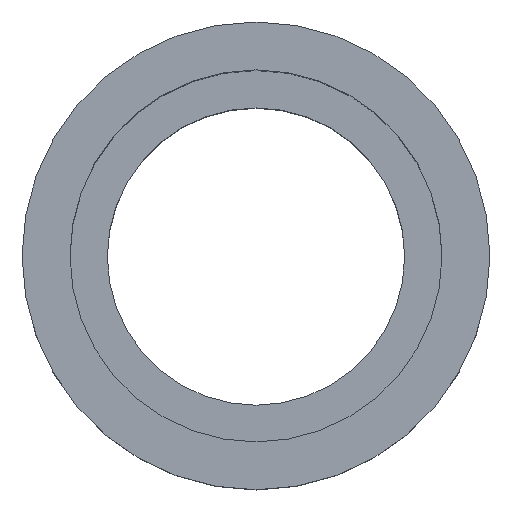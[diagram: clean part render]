
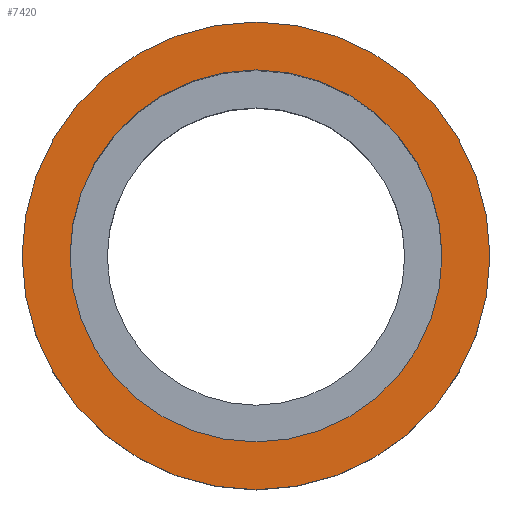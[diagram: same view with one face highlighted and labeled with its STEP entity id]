
A CAD part, top view. The second image highlights one B-rep face of the part: STEP entity #7420.
In plain terms, the highlighted planar face has unit normal (0, 0, 1) as drawn and (-1, 0, 0) by its records, which use the part's own axes.
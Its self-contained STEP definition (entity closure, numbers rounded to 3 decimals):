
#5640=CARTESIAN_POINT('',(-57.464,-60.,-24.65));
#5650=VERTEX_POINT('',#5640);
#5810=CARTESIAN_POINT('',(-57.464,-60.,24.65));
#5820=VERTEX_POINT('',#5810);
#5850=CARTESIAN_POINT('',(-57.464,-60.,0.));
#5860=DIRECTION('',(-1.,0.,0.));
#5870=DIRECTION('',(0.,0.,1.));
#5880=AXIS2_PLACEMENT_3D('',#5850,#5860,#5870);
#5890=CIRCLE('',#5880,24.65);
#5900=EDGE_CURVE('',#5650,#5820,#5890,.T.);
#7000=CARTESIAN_POINT('',(-57.464,-91.,0.));
#7010=VERTEX_POINT('',#7000);
#7130=CARTESIAN_POINT('',(-57.464,-29.,0.));
#7140=VERTEX_POINT('',#7130);
#7170=CARTESIAN_POINT('',(-57.464,-60.,0.));
#7180=DIRECTION('',(1.,0.,0.));
#7190=DIRECTION('',(0.,1.,0.));
#7200=AXIS2_PLACEMENT_3D('',#7170,#7180,#7190);
#7210=CIRCLE('',#7200,31.);
#7220=EDGE_CURVE('',#7010,#7140,#7210,.T.);
#7270=CARTESIAN_POINT('',(-57.464,-88.388,0.));
#7280=DIRECTION('',(-1.,0.,0.));
#7290=DIRECTION('',(0.,-1.,0.));
#7300=AXIS2_PLACEMENT_3D('',#7270,#7280,#7290);
#7310=PLANE('',#7300);
#7320=EDGE_CURVE('',#5820,#5650,#5890,.T.);
#7330=ORIENTED_EDGE('',*,*,#7320,.F.);
#7340=ORIENTED_EDGE('',*,*,#5900,.F.);
#7350=EDGE_LOOP('',(#7340,#7330));
#7360=FACE_BOUND('',#7350,.T.);
#7370=EDGE_CURVE('',#7140,#7010,#7210,.T.);
#7380=ORIENTED_EDGE('',*,*,#7370,.F.);
#7390=ORIENTED_EDGE('',*,*,#7220,.F.);
#7400=EDGE_LOOP('',(#7390,#7380));
#7410=FACE_OUTER_BOUND('',#7400,.T.);
#7420=ADVANCED_FACE('',(#7360,#7410),#7310,.T.);
